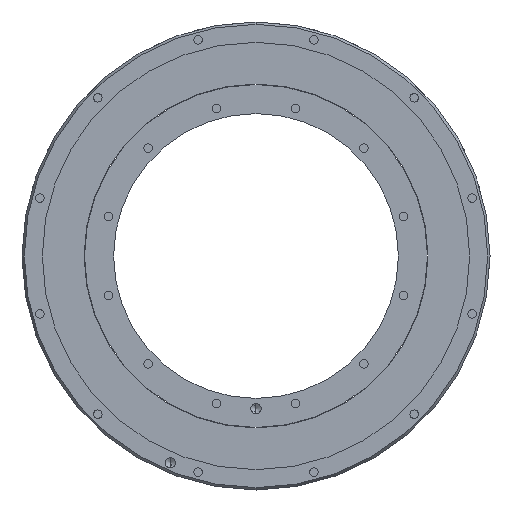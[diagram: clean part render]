
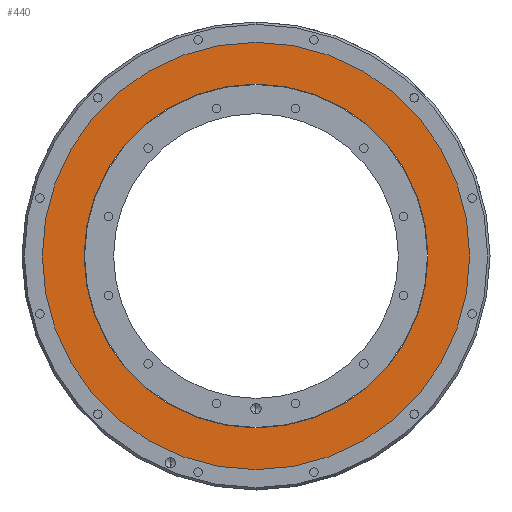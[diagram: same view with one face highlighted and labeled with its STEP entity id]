
A CAD part, front view. The second image highlights one B-rep face of the part: STEP entity #440.
In plain terms, the highlighted planar face has unit normal (0, -1, 0).
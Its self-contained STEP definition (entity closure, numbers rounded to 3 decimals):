
#368 = VERTEX_POINT ( 'NONE', #4506 ) ;
#437 = EDGE_CURVE ( 'NONE', #3846, #368, #593, .T. ) ;
#440 = ADVANCED_FACE ( 'NONE', ( #1756, #2056 ), #2659, .T. ) ;
#505 = DIRECTION ( 'NONE',  ( 0., -1., 0. ) ) ;
#593 = CIRCLE ( 'NONE', #858, 105. ) ;
#708 = DIRECTION ( 'NONE',  ( 0., 0., -1. ) ) ;
#858 = AXIS2_PLACEMENT_3D ( 'NONE', #4617, #2638, #6066 ) ;
#1003 = DIRECTION ( 'NONE',  ( 0., -1., 0. ) ) ;
#1143 = CARTESIAN_POINT ( 'NONE',  ( 84.5, 1., 0. ) ) ;
#1427 = AXIS2_PLACEMENT_3D ( 'NONE', #3474, #505, #2001 ) ;
#1488 = DIRECTION ( 'NONE',  ( 0., 0., -1. ) ) ;
#1756 = FACE_OUTER_BOUND ( 'NONE', #6388, .T. ) ;
#1823 = ORIENTED_EDGE ( 'NONE', *, *, #2294, .T. ) ;
#1859 = AXIS2_PLACEMENT_3D ( 'NONE', #2456, #3930, #2524 ) ;
#2001 = DIRECTION ( 'NONE',  ( 0., 0., -1. ) ) ;
#2056 = FACE_BOUND ( 'NONE', #3585, .T. ) ;
#2294 = EDGE_CURVE ( 'NONE', #368, #3846, #5642, .T. ) ;
#2456 = CARTESIAN_POINT ( 'NONE',  ( 0., 1., 0. ) ) ;
#2524 = DIRECTION ( 'NONE',  ( 0., 0., -1. ) ) ;
#2638 = DIRECTION ( 'NONE',  ( 0., -1., 0. ) ) ;
#2659 = PLANE ( 'NONE',  #3141 ) ;
#2687 = DIRECTION ( 'NONE',  ( 0., -1., 0. ) ) ;
#3141 = AXIS2_PLACEMENT_3D ( 'NONE', #1143, #2687, #708 ) ;
#3252 = EDGE_CURVE ( 'NONE', #5164, #3742, #4799, .T. ) ;
#3474 = CARTESIAN_POINT ( 'NONE',  ( 0., 1., 0. ) ) ;
#3495 = AXIS2_PLACEMENT_3D ( 'NONE', #4509, #1003, #1488 ) ;
#3557 = CARTESIAN_POINT ( 'NONE',  ( 0., 1., -84.5 ) ) ;
#3585 = EDGE_LOOP ( 'NONE', ( #5961, #4394 ) ) ;
#3742 = VERTEX_POINT ( 'NONE', #4343 ) ;
#3846 = VERTEX_POINT ( 'NONE', #5847 ) ;
#3930 = DIRECTION ( 'NONE',  ( 0., -1., 0. ) ) ;
#3937 = EDGE_CURVE ( 'NONE', #3742, #5164, #5631, .T. ) ;
#4343 = CARTESIAN_POINT ( 'NONE',  ( 0., 1., 84.5 ) ) ;
#4394 = ORIENTED_EDGE ( 'NONE', *, *, #3937, .F. ) ;
#4506 = CARTESIAN_POINT ( 'NONE',  ( 0., 1., -105. ) ) ;
#4509 = CARTESIAN_POINT ( 'NONE',  ( 0., 1., 0. ) ) ;
#4617 = CARTESIAN_POINT ( 'NONE',  ( 0., 1., 0. ) ) ;
#4799 = CIRCLE ( 'NONE', #1859, 84.5 ) ;
#5164 = VERTEX_POINT ( 'NONE', #3557 ) ;
#5631 = CIRCLE ( 'NONE', #3495, 84.5 ) ;
#5642 = CIRCLE ( 'NONE', #1427, 105. ) ;
#5847 = CARTESIAN_POINT ( 'NONE',  ( 0., 1., 105. ) ) ;
#5961 = ORIENTED_EDGE ( 'NONE', *, *, #3252, .F. ) ;
#6066 = DIRECTION ( 'NONE',  ( 0., 0., -1. ) ) ;
#6121 = ORIENTED_EDGE ( 'NONE', *, *, #437, .T. ) ;
#6388 = EDGE_LOOP ( 'NONE', ( #1823, #6121 ) ) ;
